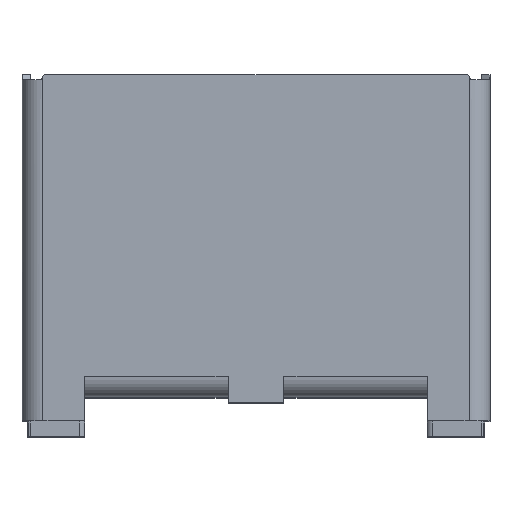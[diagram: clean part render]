
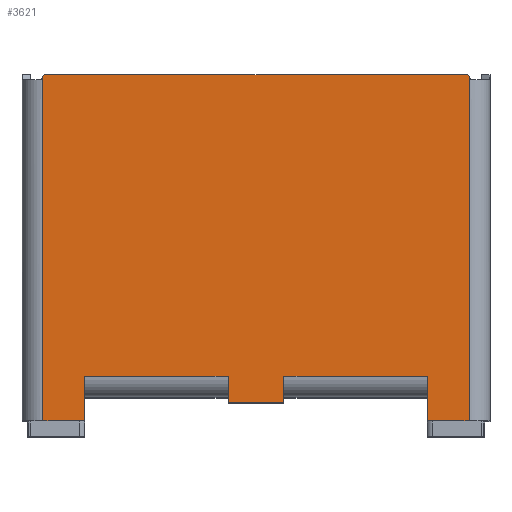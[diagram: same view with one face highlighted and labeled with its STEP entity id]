
A CAD part, top view. The second image highlights one B-rep face of the part: STEP entity #3621.
In plain terms, the highlighted planar face has unit normal (0, 0, 1).
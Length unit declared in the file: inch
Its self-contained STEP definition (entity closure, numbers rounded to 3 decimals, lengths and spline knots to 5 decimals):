
#82 = DIRECTION ( 'NONE',  ( 1., 0., 0. ) ) ;
#100 = DIRECTION ( 'NONE',  ( 0., -1., 0. ) ) ;
#135 = CARTESIAN_POINT ( 'NONE',  ( 38.75, -4.75, 48.25 ) ) ;
#192 = LINE ( 'NONE', #3464, #3041 ) ;
#203 = CARTESIAN_POINT ( 'NONE',  ( 38.75, 1., 48.25 ) ) ;
#218 = VERTEX_POINT ( 'NONE', #1105 ) ;
#223 = LINE ( 'NONE', #1372, #1188 ) ;
#225 = ORIENTED_EDGE ( 'NONE', *, *, #1730, .F. ) ;
#236 = CARTESIAN_POINT ( 'NONE',  ( 6., -4.75, 48.25 ) ) ;
#293 = LINE ( 'NONE', #135, #1084 ) ;
#301 = LINE ( 'NONE', #236, #1691 ) ;
#365 = VERTEX_POINT ( 'NONE', #2867 ) ;
#408 = CARTESIAN_POINT ( 'NONE',  ( 6., 1., 48.25 ) ) ;
#420 = VECTOR ( 'NONE', #506, 39.37008 ) ;
#429 = VERTEX_POINT ( 'NONE', #1564 ) ;
#462 = ORIENTED_EDGE ( 'NONE', *, *, #1902, .F. ) ;
#467 = CARTESIAN_POINT ( 'NONE',  ( 42.75, 29.875, 48.25 ) ) ;
#481 = LINE ( 'NONE', #3168, #2507 ) ;
#488 = DIRECTION ( 'NONE',  ( -0.632, -0.775, 0. ) ) ;
#506 = DIRECTION ( 'NONE',  ( 0., 1., 0. ) ) ;
#619 = LINE ( 'NONE', #1076, #1531 ) ;
#648 = ORIENTED_EDGE ( 'NONE', *, *, #1826, .T. ) ;
#672 = LINE ( 'NONE', #2063, #2021 ) ;
#684 = CARTESIAN_POINT ( 'NONE',  ( 2., -3.25, 48.25 ) ) ;
#783 = LINE ( 'NONE', #971, #3557 ) ;
#787 = EDGE_CURVE ( 'NONE', #1596, #3561, #301, .T. ) ;
#815 = CARTESIAN_POINT ( 'NONE',  ( 19.7, 1., 48.25 ) ) ;
#945 = ORIENTED_EDGE ( 'NONE', *, *, #1923, .T. ) ;
#950 = VECTOR ( 'NONE', #2281, 39.37008 ) ;
#971 = CARTESIAN_POINT ( 'NONE',  ( 19.7, -1., 48.25 ) ) ;
#991 = VECTOR ( 'NONE', #1061, 39.37008 ) ;
#1036 = DIRECTION ( 'NONE',  ( 0., 0., 1. ) ) ;
#1043 = DIRECTION ( 'NONE',  ( 0., 1., 0. ) ) ;
#1061 = DIRECTION ( 'NONE',  ( 0., 1., 0. ) ) ;
#1076 = CARTESIAN_POINT ( 'NONE',  ( 58.08794, 10.88984, 48.25 ) ) ;
#1081 = CARTESIAN_POINT ( 'NONE',  ( 2., 29.67583, 48.25 ) ) ;
#1084 = VECTOR ( 'NONE', #1043, 39.37008 ) ;
#1098 = FACE_OUTER_BOUND ( 'NONE', #1889, .T. ) ;
#1105 = CARTESIAN_POINT ( 'NONE',  ( 42.58738, 29.875, 48.25 ) ) ;
#1109 = ORIENTED_EDGE ( 'NONE', *, *, #1671, .T. ) ;
#1188 = VECTOR ( 'NONE', #2966, 39.37008 ) ;
#1190 = CARTESIAN_POINT ( 'NONE',  ( 2.16262, 29.875, 48.25 ) ) ;
#1220 = CARTESIAN_POINT ( 'NONE',  ( 0., 29.875, 48.25 ) ) ;
#1245 = LINE ( 'NONE', #1809, #3470 ) ;
#1279 = CARTESIAN_POINT ( 'NONE',  ( 6., 1., 48.25 ) ) ;
#1282 = VERTEX_POINT ( 'NONE', #1190 ) ;
#1326 = VERTEX_POINT ( 'NONE', #2163 ) ;
#1345 = DIRECTION ( 'NONE',  ( 0.632, -0.775, 0. ) ) ;
#1372 = CARTESIAN_POINT ( 'NONE',  ( 22.375, -3.25, 48.25 ) ) ;
#1488 = CARTESIAN_POINT ( 'NONE',  ( 6., -3.25, 48.25 ) ) ;
#1531 = VECTOR ( 'NONE', #1345, 39.37008 ) ;
#1553 = VECTOR ( 'NONE', #2870, 39.37008 ) ;
#1564 = CARTESIAN_POINT ( 'NONE',  ( 25.05, 1., 48.25 ) ) ;
#1567 = CARTESIAN_POINT ( 'NONE',  ( 25.05, -1.5, 48.25 ) ) ;
#1588 = EDGE_CURVE ( 'NONE', #218, #1282, #1727, .T. ) ;
#1596 = VERTEX_POINT ( 'NONE', #1488 ) ;
#1671 = EDGE_CURVE ( 'NONE', #1937, #2604, #783, .T. ) ;
#1691 = VECTOR ( 'NONE', #2727, 39.37008 ) ;
#1715 = EDGE_CURVE ( 'NONE', #2604, #2108, #672, .T. ) ;
#1727 = LINE ( 'NONE', #1220, #950 ) ;
#1730 = EDGE_CURVE ( 'NONE', #429, #2108, #1245, .T. ) ;
#1761 = EDGE_CURVE ( 'NONE', #429, #3191, #481, .T. ) ;
#1784 = EDGE_CURVE ( 'NONE', #1326, #3191, #293, .T. ) ;
#1801 = VECTOR ( 'NONE', #488, 39.37008 ) ;
#1809 = CARTESIAN_POINT ( 'NONE',  ( 25.05, -1., 48.25 ) ) ;
#1826 = EDGE_CURVE ( 'NONE', #1326, #365, #192, .T. ) ;
#1852 = EDGE_CURVE ( 'NONE', #365, #3419, #2671, .T. ) ;
#1889 = EDGE_LOOP ( 'NONE', ( #1109, #1983, #225, #2268, #3580, #648, #2022, #462, #2559, #945, #2408, #3032, #2643, #3505 ) ) ;
#1902 = EDGE_CURVE ( 'NONE', #218, #3419, #619, .T. ) ;
#1923 = EDGE_CURVE ( 'NONE', #1282, #3158, #2529, .T. ) ;
#1937 = VERTEX_POINT ( 'NONE', #815 ) ;
#1944 = EDGE_CURVE ( 'NONE', #3472, #3158, #3246, .T. ) ;
#1968 = EDGE_CURVE ( 'NONE', #1596, #3472, #223, .T. ) ;
#1983 = ORIENTED_EDGE ( 'NONE', *, *, #1715, .T. ) ;
#2010 = EDGE_CURVE ( 'NONE', #1937, #3561, #2267, .T. ) ;
#2021 = VECTOR ( 'NONE', #82, 39.37008 ) ;
#2022 = ORIENTED_EDGE ( 'NONE', *, *, #1852, .T. ) ;
#2063 = CARTESIAN_POINT ( 'NONE',  ( 19.7, -1.5, 48.25 ) ) ;
#2078 = CARTESIAN_POINT ( 'NONE',  ( 0., 0., 48.25 ) ) ;
#2105 = DIRECTION ( 'NONE',  ( 1., 0., 0. ) ) ;
#2108 = VERTEX_POINT ( 'NONE', #1567 ) ;
#2158 = CARTESIAN_POINT ( 'NONE',  ( 2., 29.875, 48.25 ) ) ;
#2163 = CARTESIAN_POINT ( 'NONE',  ( 38.75, -3.25, 48.25 ) ) ;
#2267 = LINE ( 'NONE', #1279, #1553 ) ;
#2268 = ORIENTED_EDGE ( 'NONE', *, *, #1761, .T. ) ;
#2281 = DIRECTION ( 'NONE',  ( -1., 0., 0. ) ) ;
#2319 = DIRECTION ( 'NONE',  ( 0., -1., 0. ) ) ;
#2394 = CARTESIAN_POINT ( 'NONE',  ( -13.33794, 10.88984, 48.25 ) ) ;
#2408 = ORIENTED_EDGE ( 'NONE', *, *, #1944, .F. ) ;
#2507 = VECTOR ( 'NONE', #2639, 39.37008 ) ;
#2529 = LINE ( 'NONE', #2394, #1801 ) ;
#2559 = ORIENTED_EDGE ( 'NONE', *, *, #1588, .T. ) ;
#2604 = VERTEX_POINT ( 'NONE', #2975 ) ;
#2629 = PLANE ( 'NONE',  #3109 ) ;
#2639 = DIRECTION ( 'NONE',  ( 1., 0., 0. ) ) ;
#2643 = ORIENTED_EDGE ( 'NONE', *, *, #787, .T. ) ;
#2671 = LINE ( 'NONE', #467, #991 ) ;
#2727 = DIRECTION ( 'NONE',  ( 0., 1., 0. ) ) ;
#2867 = CARTESIAN_POINT ( 'NONE',  ( 42.75, -3.25, 48.25 ) ) ;
#2870 = DIRECTION ( 'NONE',  ( -1., 0., 0. ) ) ;
#2901 = DIRECTION ( 'NONE',  ( -1., 0., 0. ) ) ;
#2966 = DIRECTION ( 'NONE',  ( -1., 0., 0. ) ) ;
#2975 = CARTESIAN_POINT ( 'NONE',  ( 19.7, -1.5, 48.25 ) ) ;
#3032 = ORIENTED_EDGE ( 'NONE', *, *, #1968, .F. ) ;
#3041 = VECTOR ( 'NONE', #2105, 39.37008 ) ;
#3109 = AXIS2_PLACEMENT_3D ( 'NONE', #2078, #1036, #2901 ) ;
#3158 = VERTEX_POINT ( 'NONE', #1081 ) ;
#3168 = CARTESIAN_POINT ( 'NONE',  ( 38.75, 1., 48.25 ) ) ;
#3191 = VERTEX_POINT ( 'NONE', #203 ) ;
#3246 = LINE ( 'NONE', #2158, #420 ) ;
#3378 = CARTESIAN_POINT ( 'NONE',  ( 42.75, 29.67583, 48.25 ) ) ;
#3419 = VERTEX_POINT ( 'NONE', #3378 ) ;
#3464 = CARTESIAN_POINT ( 'NONE',  ( 22.375, -3.25, 48.25 ) ) ;
#3470 = VECTOR ( 'NONE', #100, 39.37008 ) ;
#3472 = VERTEX_POINT ( 'NONE', #684 ) ;
#3505 = ORIENTED_EDGE ( 'NONE', *, *, #2010, .F. ) ;
#3557 = VECTOR ( 'NONE', #2319, 39.37008 ) ;
#3561 = VERTEX_POINT ( 'NONE', #408 ) ;
#3580 = ORIENTED_EDGE ( 'NONE', *, *, #1784, .F. ) ;
#3621 = ADVANCED_FACE ( 'NONE', ( #1098 ), #2629, .T. ) ;
